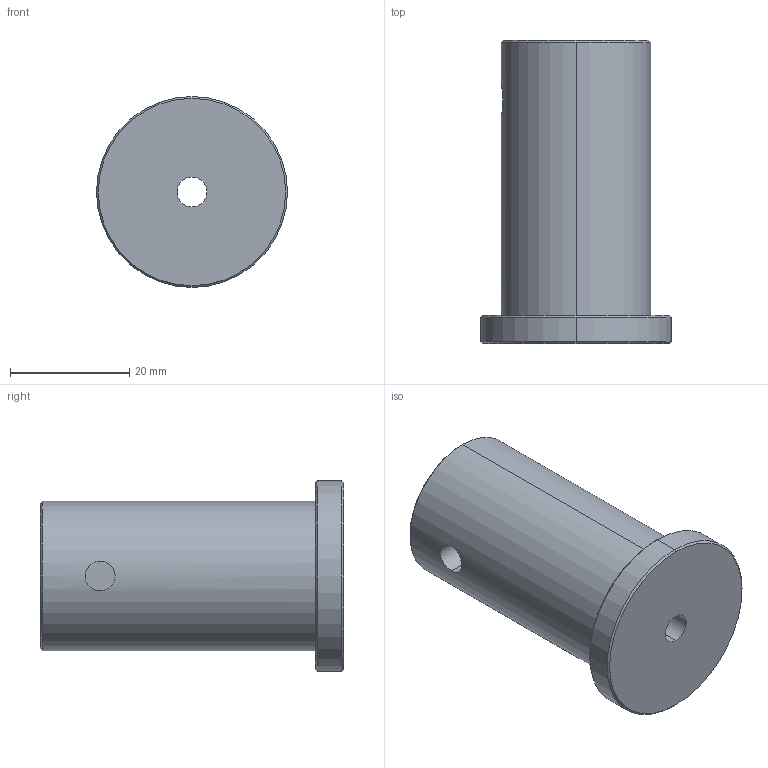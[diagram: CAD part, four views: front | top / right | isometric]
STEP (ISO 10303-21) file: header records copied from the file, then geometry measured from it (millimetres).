
FILE_DESCRIPTION (( 'STEP AP214' ), '1' );
FILE_NAME ('真空2英寸套筒主体.STEP', '2026-08-06T05:55:59', ( '' ), ( '' ), 'SwSTEP 2.0', 'SolidWorks 2024', '' );
FILE_SCHEMA (( 'AUTOMOTIVE_DESIGN' ));
Length unit declared in the file: millimetre
Products named in the file (1): 真空2英寸套筒主体
Bounding box: 32 x 50.8 x 32 mm (x, y, z)
Volume: 19942.7 mm3; surface area: 7705.8 mm2
Topology: 1 solids, 1 shells, 34 faces, 76 edges, 46 vertices
Faces by surface type: cylinder 13, cone 11, plane 10
Entity records: 1084 total; most frequent: CARTESIAN_POINT 281, DIRECTION 173, ORIENTED_EDGE 152, EDGE_CURVE 76, AXIS2_PLACEMENT_3D 68, VERTEX_POINT 46, EDGE_LOOP 40, VECTOR 37
